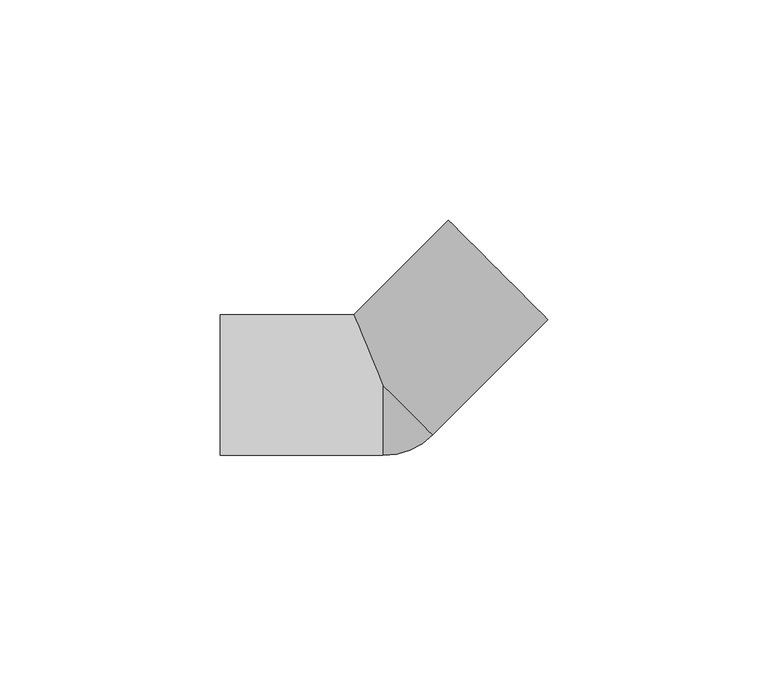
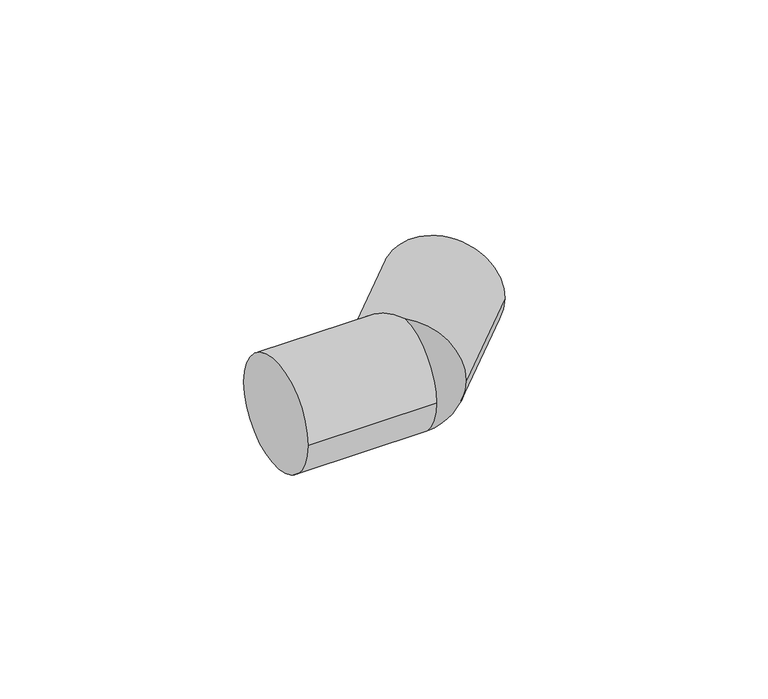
"""IFC4 building model written with IfcOpenShell, lengths in millimetres: pipe fitting geometry, Pipelife - VRD - Kolano : Pipelife - VRD - Kolano."""

from ifc_helpers import new_model, si_unit, point, frame, origin, place, context, project, spatial, circle_curve, ellipse_curve, trimmed, source, transform, mapped, element, save
from ifc_brep_helpers import plane_surface, cylinder_surface, revolved_surface, advanced_brep


def pipe_fitting_fe5a80f3(model_context):
    return source(origin(), model_context, "Body", "AdvancedBrep", [
        advanced_brep(
        [(-37.0, 16.0, 0.0), (-37.0, -16.0, 0.0), (0.0, -16.0, 0.0), (0.0, 0.0, 16.0), (-6.627417, 16.0, 0.0), (0.0, 0.0, -16.0), (37.4766594, 14.8492424, 0.0), (14.8492424, 37.4766594, 0.0), (11.3137085, -11.3137085, 0.0)],
        [
            (0, 1, circle_curve(frame((-37.0, 0.0, 0.0), z_axis=(-1.0, 0.0, 0.0), x_axis=(0.0, -1.0, 0.0)), 16.0)),
            (1, 0, circle_curve(frame((-37.0, 0.0, 0.0), z_axis=(-1.0, 0.0, 0.0), x_axis=(0.0, -1.0, 0.0)), 16.0)),
            (1, 2),
            (2, 3, circle_curve(frame((0.0, 0.0, 0.0), z_axis=(-1.0, 0.0, 0.0), x_axis=(0.0, -1.0, 0.0)), 16.0)),
            (3, 4, ellipse_curve(frame((0.0, 0.0, 0.0), z_axis=(-0.9238795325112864, -0.3826834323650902, 0.0), x_axis=(0.3826834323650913, -0.9238795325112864, 0.0)), 17.3182752, 16.0)),
            (4, 0),
            (4, 5, ellipse_curve(frame((0.0, 0.0, 0.0), z_axis=(-0.9238795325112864, -0.3826834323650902, 0.0), x_axis=(0.3826834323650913, -0.9238795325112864, 0.0)), 17.3182752, 16.0)),
            (5, 2, circle_curve(frame((0.0, 0.0, 0.0), z_axis=(-1.0, 0.0, 0.0), x_axis=(0.0, -1.0, 0.0)), 16.0)),
            (6, 7, circle_curve(frame((26.1629509, 26.1629509, 0.0), z_axis=(0.7071067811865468, 0.7071067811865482, 0.0), x_axis=(-0.7071067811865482, 0.7071067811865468, 0.0)), 16.0)),
            (7, 6, circle_curve(frame((26.1629509, 26.1629509, 0.0), z_axis=(0.7071067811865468, 0.7071067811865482, 0.0), x_axis=(-0.7071067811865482, 0.7071067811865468, 0.0)), 16.0)),
            (7, 4),
            (3, 8, circle_curve(frame((0.0, 0.0, 0.0), z_axis=(0.7071067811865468, 0.7071067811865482, 0.0), x_axis=(-0.7071067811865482, 0.7071067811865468, 0.0)), 16.0)),
            (8, 6),
            (8, 5, circle_curve(frame((0.0, 0.0, 0.0), z_axis=(0.7071067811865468, 0.7071067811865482, 0.0), x_axis=(-0.7071067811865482, 0.7071067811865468, 0.0)), 16.0)),
        ],
        [
            plane_surface(frame((-37.0, 0.0, 0.0), z_axis=(-1.0, 0.0, 0.0), x_axis=(0.0, 0.0, 1.0))),
            cylinder_surface(frame((0.0, 0.0, 0.0), z_axis=(1.0, 0.0, 0.0), x_axis=(0.0, -1.0, 0.0)), 16.0),
            plane_surface(frame((26.1629509, 26.1629509, 0.0), z_axis=(0.7071067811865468, 0.7071067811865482, 0.0), x_axis=(0.0, 0.0, 1.0))),
            cylinder_surface(frame((0.0, 0.0, 0.0), z_axis=(-0.7071067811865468, -0.7071067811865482, 0.0), x_axis=(-0.7071067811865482, 0.7071067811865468, 0.0)), 16.0),
            revolved_surface(trimmed(ellipse_curve(frame((0.0, 0.0, 0.0), z_axis=(-1.0, 0.0, 0.0), x_axis=(0.0, 1.0, 0.0)), 16.0, 16.0), [point((0.0, 0.0, -16.0))], [point((0.0, 0.0, 16.0))], True, "CARTESIAN"), (0.0, 0.0, 40.6986308), (0.0, 0.0, 1.0)),
        ],
        [
            (0, [[1, 2]]),
            (1, [[-2, 3, 4, 5, 6]]),
            (1, [[-1, -6, 7, 8, -3]]),
            (2, [[9, 10]]),
            (3, [[-10, 11, -5, 12, 13]]),
            (3, [[-9, -13, 14, -7, -11]]),
            (4, [[-4, -8, -14, -12]]),
        ],
    ),
    ])


if __name__ == "__main__":
    model = new_model("IFC4")
    model_context = context("Model", 3, world=origin())
    ifc_project = project(units=[si_unit("LENGTHUNIT", "METRE", prefix="MILLI")], contexts=[model_context])
    site = spatial("IfcSite", under=ifc_project)
    building = spatial("IfcBuilding", under=site)
    placement = place(None, origin())
    pipe_fitting_shape = pipe_fitting_fe5a80f3(model_context)
    element("IfcPipeFitting", 1, ObjectType="Pipelife - VRD - Kolano : Pipelife - VRD - Kolano", at=placement, inside=building, context=model_context, shape_type="MappedRepresentation", body=[
        mapped(pipe_fitting_shape, transform((0.0, 0.0, 0.0), x_axis=(1.0, 0.0, 0.0), y_axis=(0.0, 1.0, 0.0), z_axis=(0.0, 0.0, 1.0))),
    ])
    save(model, "model.ifc")
